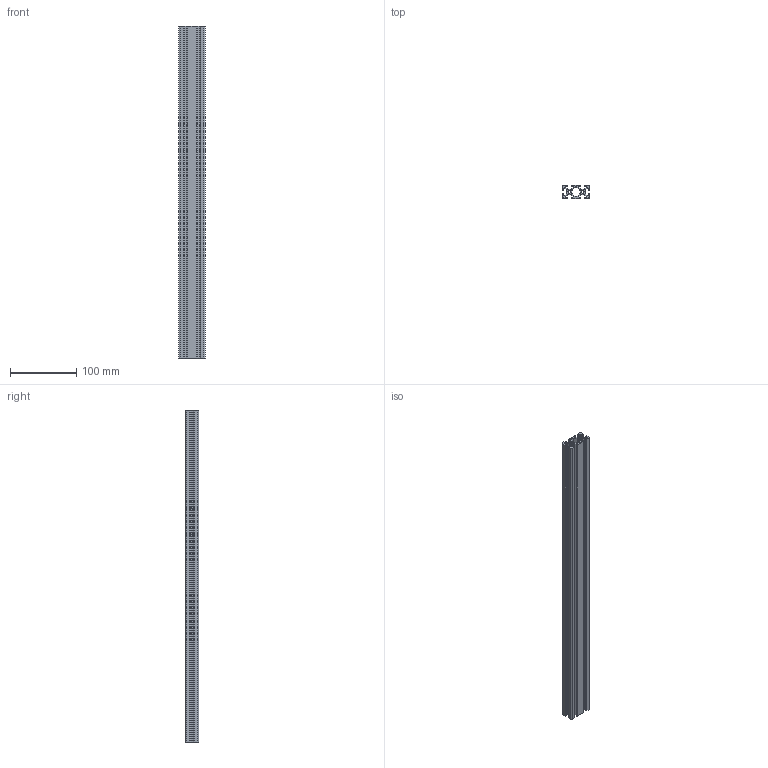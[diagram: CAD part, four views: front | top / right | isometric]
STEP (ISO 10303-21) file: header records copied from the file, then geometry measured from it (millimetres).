
FILE_DESCRIPTION (( 'STEP AP203' ), '1' );
FILE_NAME ('PP4040-500-Rollco.step', '2026-05-05T08:45:50', ( '' ), ( '' ), 'SwSTEP 2.0', 'SolidWorks 2014', '' );
FILE_SCHEMA (( 'CONFIG_CONTROL_DESIGN' ));
Length unit declared in the file: millimetre
Products named in the file (1): PP4040-500-Rollco
Bounding box: 40 x 20 x 500 mm (x, y, z)
Volume: 165849.5 mm3; surface area: 153333.5 mm2
Topology: 1 solids, 1 shells, 126 faces, 372 edges, 248 vertices
Faces by surface type: cylinder 66, plane 60
Entity records: 4337 total; most frequent: DIRECTION 758, CARTESIAN_POINT 747, ORIENTED_EDGE 744, EDGE_CURVE 372, AXIS2_PLACEMENT_3D 259, VERTEX_POINT 248, VECTOR 240, LINE 240
